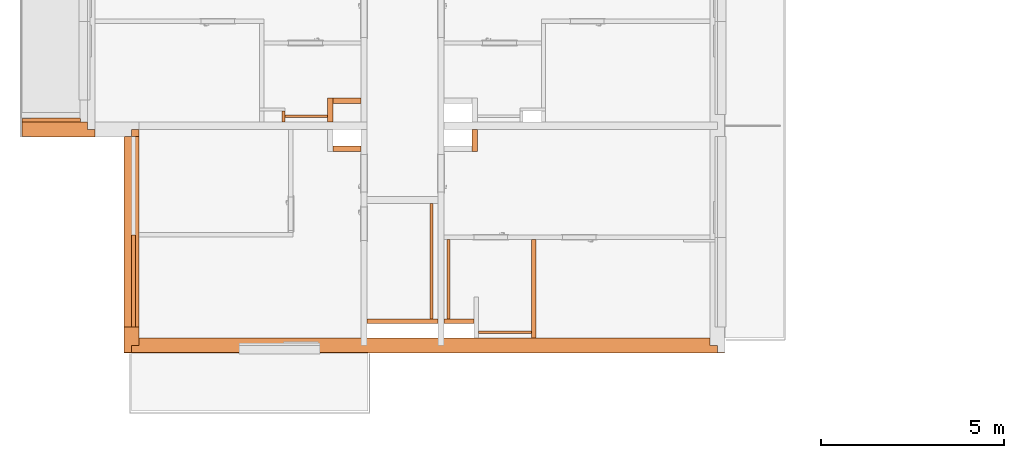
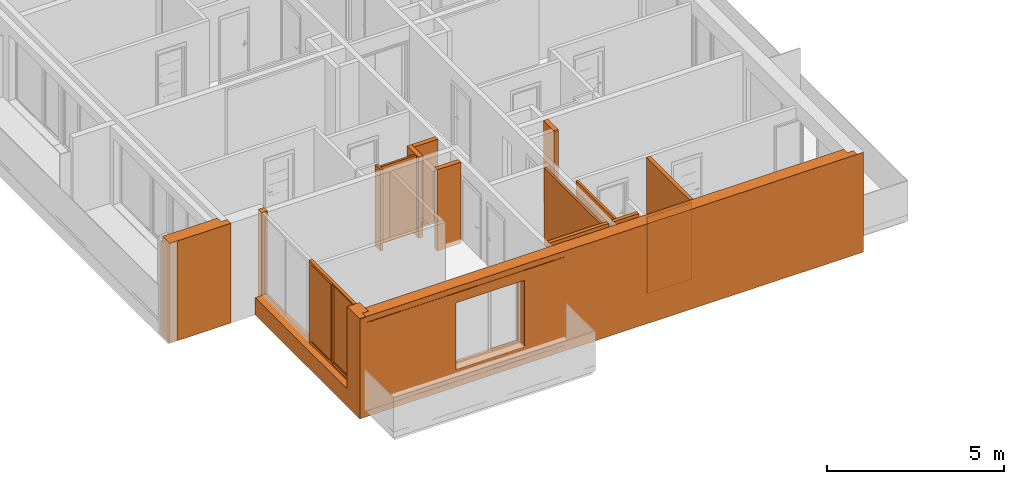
# One storey, part 52 of 67: 16 proxies, 4 openings.
"""IFC2X3 building model written with IfcOpenShell, lengths in millimetres."""

from ifc_helpers import new_model, entity, si_unit, converted_unit, derived_unit, money_unit, direction, frame, origin_with_axes, origin_2d_with_axis, place, context, subcontext, project, spatial, rectangle, extrude, open_shell, faceted_brep, surface_model, material, material_list, type_object, element, fill, save


model = new_model("IFC2X3")

# Units and contexts
model_context = context("Model", 3, precision=0.01, world=origin_with_axes(), true_north=direction((0.34421633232, 0.938890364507)))
body_context = subcontext(model_context, "Body", "Model", "MODEL_VIEW")
ifc_project = project(units=[si_unit("LENGTHUNIT", "METRE", prefix="MILLI"), si_unit("AREAUNIT", "SQUARE_METRE"), si_unit("VOLUMEUNIT", "CUBIC_METRE"), converted_unit("PLANEANGLEUNIT", "DEGREE", entity("IfcPlaneAngleMeasure", 0.0174532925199), si_unit("PLANEANGLEUNIT", "RADIAN"), dimensions=[0, 0, 0, 0, 0, 0, 0]), si_unit("SOLIDANGLEUNIT", "STERADIAN"), money_unit("USD"), converted_unit("TIMEUNIT", "Year", entity("IfcTimeMeasure", 31556926.0), si_unit("TIMEUNIT", "SECOND"), dimensions=[0, 0, 1, 0, 0, 0, 0]), si_unit("MASSUNIT", "GRAM", prefix="KILO"), si_unit("THERMODYNAMICTEMPERATUREUNIT", "DEGREE_CELSIUS"), si_unit("LUMINOUSINTENSITYUNIT", "LUMEN"), si_unit("ENERGYUNIT", "JOULE", prefix="MEGA"), derived_unit("THERMALCONDUCTANCEUNIT", [(si_unit("POWERUNIT", "WATT"), 1), (si_unit("LENGTHUNIT", "METRE"), -1), (si_unit("THERMODYNAMICTEMPERATUREUNIT", "KELVIN"), -1)]), derived_unit("SPECIFICHEATCAPACITYUNIT", [(si_unit("ENERGYUNIT", "JOULE"), 1), (si_unit("MASSUNIT", "GRAM", prefix="KILO"), -1), (si_unit("THERMODYNAMICTEMPERATUREUNIT", "KELVIN"), -1)]), derived_unit("MASSDENSITYUNIT", [(si_unit("MASSUNIT", "GRAM", prefix="KILO"), 1), (si_unit("VOLUMEUNIT", "CUBIC_METRE"), -1)])], contexts=[model_context])

# Site, building, storey
site_placement = place(None, origin_with_axes())
site = spatial("IfcSite", under=ifc_project, at=site_placement, Name="USTRONIE MORSKIE", CompositionType="ELEMENT")
building_placement = place(site_placement, origin_with_axes())
building = spatial("IfcBuilding", under=site, at=building_placement, Name="Budynek", CompositionType="ELEMENT")
storey_placement = place(building_placement, frame((0.0, 0.0, 4000.0), z_axis=(0.0, 0.0, 1.0), x_axis=(1.0, 0.0, 0.0)))
storey = spatial("IfcBuildingStorey", under=building, at=storey_placement, Name="PIĘTRO 1", CompositionType="ELEMENT", Elevation=4000.0)

# Proxies
ifc_material_1 = material(Name="Bloczki silikatowe")
building_element_proxy_type_1 = type_object("IfcBuildingElementProxyType", Name="Bloczki silikatowe 120", PredefinedType="NOTDEFINED")
proxy_1_placement = place(storey_placement, frame((359617.920919, 709701.199036, -160.0), z_axis=(0.0, 0.0, 1.0), x_axis=(-1.0, 0.0, 0.0)))
element("IfcBuildingElementProxy", 1, at=proxy_1_placement, inside=storey, type_object=building_element_proxy_type_1, material=ifc_material_1, Name="SW-04", context=body_context, shape_type="Brep", body=[
    faceted_brep([(2020.0, 4.54747350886e-10, 2800.0), (80.0, 2.27373675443e-10, 2800.0), (80.0, -120.0, 2800.0), (2020.0, -120.0, 2800.0), (2020.0, 4.54747350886e-10, 0.0), (80.0, 2.27373675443e-10, 0.0), (80.0, -120.0, 0.0), (2020.0, -120.0, 0.0)], [[[0, 1, 2, 3]], [[4, 5, 1, 0]], [[5, 6, 2, 1]], [[3, 2, 6, 7]], [[7, 4, 0, 3]], [[7, 6, 5, 4]]]),
])
proxy_2_placement = place(storey_placement, frame((362147.920919, 709201.199036, -160.0), z_axis=(0.0, 0.0, 1.0), x_axis=(0.0, 1.0, 0.0)))
element("IfcBuildingElementProxy", 2, at=proxy_2_placement, inside=storey, type_object=building_element_proxy_type_1, material=ifc_material_1, Name="SW-04", context=body_context, shape_type="Brep", body=[
    faceted_brep([(2790.01936646, -60.0, 2800.0), (2790.01936646, 60.0, 2800.0), (100.0, 60.0, 2800.0), (100.0, -60.0, 2800.0), (2790.01936646, -60.0, 0.0), (2790.01936646, 60.0, 0.0), (100.0, 60.0, 0.0), (100.0, -60.0, 0.0)], [[[0, 1, 2, 3]], [[1, 0, 4, 5]], [[1, 5, 6, 2]], [[7, 3, 2, 6]], [[4, 0, 3, 7]], [[5, 4, 7, 6]]]),
])
proxy_3_placement = place(storey_placement, frame((359617.920919, 709701.199036, -160.0), z_axis=(0.0, 0.0, 1.0), x_axis=(1.0, 0.0, 0.0)))
element("IfcBuildingElementProxy", 3, at=proxy_3_placement, inside=storey, type_object=building_element_proxy_type_1, material=ifc_material_1, Name="SW-04", context=body_context, shape_type="Brep", body=[
    faceted_brep([(900.0, 120.0, 0.0), (900.0, 0.0, 0.0), (80.0, 0.0, 0.0), (80.0, 120.0, 0.0), (900.0, 120.0, 2800.0), (900.0, 0.0, 2800.0), (80.0, 0.0, 2800.0), (80.0, 120.0, 2800.0)], [[[0, 1, 2, 3]], [[1, 0, 4, 5]], [[1, 5, 6, 2]], [[7, 3, 2, 6]], [[4, 0, 3, 7]], [[5, 4, 7, 6]]]),
])

# Proxies, openings
ifc_material_2 = material(Name="Beton konstrukcyjny B25")
ifc_material_3 = material(Name="Wełna ELEW")
ifc_material_4 = material(Name="Tynk zewnętrzny")
ifc_material_list_1 = material_list([ifc_material_2, ifc_material_3, ifc_material_4])
building_element_proxy_type_2 = type_object("IfcBuildingElementProxyType", Name="20+20 410", PredefinedType="NOTDEFINED")
proxy_4_placement = place(storey_placement, frame((351267.920919, 715101.199036, -600.0), z_axis=(0.0, 0.0, 1.0), x_axis=(0.0, -1.0, 0.0)))
proxy_4 = element("IfcBuildingElementProxy", 4, at=proxy_4_placement, inside=storey, type_object=building_element_proxy_type_2, material=ifc_material_list_1, Name="SZ-01", context=body_context, shape_type="Brep", body=[
    faceted_brep([(100.000005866, 100.0, 440.0), (100.000005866, 100.0, 3240.0), (100.0, 100.0, 3440.0), (6000.0, 100.0, 3440.0), (6000.0, 100.0, 0.0), (100.0, 100.0, 0.0), (100.000005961, 0.0, 3240.0), (100.000005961, 0.0, 440.0), (100.000005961, -100.0, 3240.0), (100.0, -100.0, 3440.0), (6000.0, -100.0, 3440.0), (6000.0, -100.0, 0.0), (100.0, -100.0, 0.0), (100.000005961, -100.0, 440.0)], [[[0, 1, 2, 3, 4, 5]], [[6, 1, 0, 7]], [[6, 8, 9, 2, 1]], [[2, 9, 10, 3]], [[4, 3, 10, 11]], [[12, 5, 4, 11]], [[7, 0, 5, 12, 13]], [[8, 6, 7, 13]], [[8, 13, 12, 11, 10, 9]]]),
    faceted_brep([(300.0, -100.0, 0.0), (300.0, -100.0, 3440.0), (6200.0, -100.0, 3440.0), (6200.0, -100.0, 0.0), (300.0, -300.0, 0.0), (300.0, -300.0, 3440.0), (6200.0, -300.0, 3440.0), (6200.0, -300.0, 0.0)], [[[0, 1, 2, 3]], [[1, 0, 4, 5]], [[2, 1, 5, 6]], [[7, 3, 2, 6]], [[7, 4, 0, 3]], [[5, 4, 7, 6]]]),
    faceted_brep([(310.00000596, -300.0, 440.0), (310.00000596, -300.0, 3240.0), (310.0, -300.0, 3440.0), (6210.0, -300.0, 3440.0), (6210.0, -300.0, 0.0), (310.0, -300.0, 0.0), (310.00000596, -310.0, 3240.0), (310.00000596, -310.0, 440.0), (310.0, -310.0, 3440.0), (6210.0, -310.0, 3440.0), (6210.0, -310.0, 0.0), (310.0, -310.0, 0.0)], [[[0, 1, 2, 3, 4, 5]], [[6, 1, 0, 7]], [[1, 6, 8, 2]], [[2, 8, 9, 3]], [[4, 3, 9, 10]], [[11, 5, 4, 10]], [[7, 0, 5, 11]], [[6, 7, 11, 10, 9, 8]]]),
])
opening_1_placement = place(proxy_4_placement, frame((4240.0, 0.0, 600.0), z_axis=(0.0, 0.0, 1.0), x_axis=(1.0, 0.0, 0.0)))
opening_1 = element("IfcOpeningElement", 5, at=opening_1_placement, cuts=proxy_4, Name="Wz.04", context=body_context, shape_type="SweptSolid", body=[
    extrude(rectangle(XDim=2520.0, YDim=2840.0, at=origin_2d_with_axis()), frame((0.0, 0.0, 1420.0), z_axis=(0.0, 1.0, 0.0), x_axis=(1.0, 0.0, 0.0)), (0.0, 0.0, -1.0), 720.0),
    extrude(rectangle(XDim=2520.0, YDim=2840.0, at=origin_2d_with_axis()), frame((0.0, 0.0, 1420.0), z_axis=(0.0, -1.0, 0.0), x_axis=(1.0, 0.0, 0.0)), (0.0, 0.0, -1.0), 510.0),
])
opening_2_placement = place(proxy_4_placement, frame((1640.0, 0.0, 600.0), z_axis=(0.0, 0.0, 1.0), x_axis=(1.0, 0.0, 0.0)))
element("IfcOpeningElement", 6, at=opening_2_placement, cuts=proxy_4, Name="Wz.04", context=body_context, shape_type="SweptSolid", body=[
    extrude(rectangle(XDim=2680.0, YDim=2840.0, at=origin_2d_with_axis()), frame((0.0, 0.0, 1420.0), z_axis=(0.0, -1.0, 0.0), x_axis=(-1.0, 0.0, 0.0)), (0.0, 0.0, 1.0), 720.0),
    extrude(rectangle(XDim=2680.0, YDim=2840.0, at=origin_2d_with_axis()), frame((0.0, 0.0, 1420.0), z_axis=(0.0, 1.0, 0.0), x_axis=(-1.0, 0.0, 0.0)), (0.0, 0.0, 1.0), 510.0),
])
building_element_proxy_type_3 = type_object("IfcBuildingElementProxyType", Name="Okno przesuwne, 2-skrzydłowe 23", PredefinedType="NOTDEFINED")
proxy_5_placement = place(opening_1_placement, frame((-1260.0, 0.0, 0.0), z_axis=(0.0, 0.0, 1.0), x_axis=(1.0, 0.0, 0.0)))
proxy_5 = element("IfcBuildingElementProxy", 7, at=proxy_5_placement, inside=storey, type_object=building_element_proxy_type_3, Name="Wz.04", context=body_context, shape_type="SurfaceModel", body=[
    faceted_brep([(50.0000000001, -100.0, 50.0), (50.0000000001, 0.0, 50.0), (50.0000000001, 0.0, 2790.0), (50.0000000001, -100.0, 2790.0), (0.0, -100.0, 50.0), (0.0, 0.0, 50.0), (0.0, 0.0, 2790.0), (0.0, -100.0, 2790.0)], [[[0, 1, 2, 3]], [[4, 5, 1, 0]], [[1, 5, 6, 2]], [[3, 2, 6, 7]], [[0, 3, 7, 4]], [[7, 6, 5, 4]]]),
    faceted_brep([(2520.0, -100.0, 50.0), (2520.0, 0.0, 50.0), (2520.0, 0.0, 2790.0), (2520.0, -100.0, 2790.0), (2470.0, -100.0, 50.0), (2470.0, 0.0, 50.0), (2470.0, 0.0, 2790.0), (2470.0, -100.0, 2790.0)], [[[0, 1, 2, 3]], [[4, 5, 1, 0]], [[1, 5, 6, 2]], [[3, 2, 6, 7]], [[0, 3, 7, 4]], [[7, 6, 5, 4]]]),
    faceted_brep([(2520.0, -100.0, 50.0), (2520.0, 0.0, 50.0), (2470.0, 0.0, 50.0), (2470.0, -100.0, 50.0), (2520.0, -100.0, 0.0), (2520.0, 0.0, 0.0), (0.0, 0.0, 0.0), (0.0, 0.0, 50.0), (50.0000000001, 0.0, 50.0), (50.0000000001, -100.0, 50.0), (0.0, -100.0, 50.0), (0.0, -100.0, 0.0)], [[[0, 1, 2, 3]], [[4, 5, 1, 0]], [[1, 5, 6, 7, 8, 2]], [[3, 2, 8, 9]], [[0, 3, 9, 10, 11, 4]], [[11, 6, 5, 4]], [[10, 7, 6, 11]], [[9, 8, 7, 10]]]),
    faceted_brep([(2520.0, -100.0, 2840.0), (2520.0, 0.0, 2840.0), (0.0, 0.0, 2840.0), (0.0, -100.0, 2840.0), (2520.0, -100.0, 2790.0), (2520.0, 0.0, 2790.0), (2470.0, 0.0, 2790.0), (50.0000000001, 0.0, 2790.0), (0.0, 0.0, 2790.0), (0.0, -100.0, 2790.0), (50.0000000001, -100.0, 2790.0), (2470.0, -100.0, 2790.0)], [[[0, 1, 2, 3]], [[4, 5, 1, 0]], [[1, 5, 6, 7, 8, 2]], [[3, 2, 8, 9]], [[0, 3, 9, 10, 11, 4]], [[11, 6, 5, 4]], [[10, 7, 6, 11]], [[9, 8, 7, 10]]]),
    faceted_brep([(100.0, -100.0, 2740.0), (100.0, -50.0, 2740.0), (50.0000000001, -50.0, 2740.0), (50.0000000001, -100.0, 2740.0), (100.0, -100.0, 100.0), (100.0, -50.0, 100.0), (50.0000000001, -50.0, 100.0), (50.0000000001, -100.0, 100.0)], [[[0, 1, 2, 3]], [[4, 5, 1, 0]], [[1, 5, 6, 2]], [[3, 2, 6, 7]], [[0, 3, 7, 4]], [[7, 6, 5, 4]]]),
    faceted_brep([(1235.0, -100.0, 100.0), (1235.0, -50.0, 100.0), (1285.0, -50.0, 100.0), (1285.0, -100.0, 100.0), (1235.0, -100.0, 2740.0), (1235.0, -50.0, 2740.0), (1285.0, -50.0, 2740.0), (1285.0, -100.0, 2740.0)], [[[0, 1, 2, 3]], [[4, 5, 1, 0]], [[1, 5, 6, 2]], [[3, 2, 6, 7]], [[0, 3, 7, 4]], [[7, 6, 5, 4]]]),
    faceted_brep([(1285.0, -100.0, 50.0), (1285.0, -50.0, 50.0), (1285.0, -50.0, 100.0), (1285.0, -100.0, 100.0), (50.0000000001, -100.0, 50.0), (50.0000000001, -50.0, 50.0), (50.0000000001, -50.0, 100.0), (100.0, -50.0, 100.0), (1235.0, -50.0, 100.0), (1235.0, -100.0, 100.0), (100.0, -100.0, 100.0), (50.0000000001, -100.0, 100.0)], [[[0, 1, 2, 3]], [[4, 5, 1, 0]], [[1, 5, 6, 7, 8, 2]], [[3, 2, 8, 9]], [[0, 3, 9, 10, 11, 4]], [[11, 6, 5, 4]], [[10, 7, 6, 11]], [[9, 8, 7, 10]]]),
    faceted_brep([(50.0000000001, -100.0, 2790.0), (50.0000000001, -50.0, 2790.0), (50.0000000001, -50.0, 2740.0), (50.0000000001, -100.0, 2740.0), (1285.0, -100.0, 2790.0), (1285.0, -50.0, 2790.0), (1285.0, -50.0, 2740.0), (1235.0, -50.0, 2740.0), (100.0, -50.0, 2740.0), (100.0, -100.0, 2740.0), (1235.0, -100.0, 2740.0), (1285.0, -100.0, 2740.0)], [[[0, 1, 2, 3]], [[4, 5, 1, 0]], [[1, 5, 6, 7, 8, 2]], [[3, 2, 8, 9]], [[0, 3, 9, 10, 11, 4]], [[11, 6, 5, 4]], [[10, 7, 6, 11]], [[9, 8, 7, 10]]]),
    surface_model("IfcShellBasedSurfaceModel", [(100.0, -85.0, 100.0), (1235.0, -85.0, 100.0), (1235.0, -85.0, 2740.0), (100.0, -85.0, 2740.0)], [open_shell([[[0, 1, 2, 3]]])]),
    surface_model("IfcShellBasedSurfaceModel", [(100.0, -65.0, 100.0), (100.0, -65.0, 2740.0), (1235.0, -65.0, 2740.0), (1235.0, -65.0, 100.0)], [open_shell([[[0, 1, 2, 3]]])]),
    faceted_brep([(1285.0, -50.0, 2740.0), (1285.0, 0.0, 2740.0), (1235.0, 0.0, 2740.0), (1235.0, -50.0, 2740.0), (1285.0, -50.0, 100.0), (1285.0, 0.0, 100.0), (1235.0, 0.0, 100.0), (1235.0, -50.0, 100.0)], [[[0, 1, 2, 3]], [[4, 5, 1, 0]], [[1, 5, 6, 2]], [[3, 2, 6, 7]], [[0, 3, 7, 4]], [[7, 6, 5, 4]]]),
    faceted_brep([(2420.0, -50.0, 100.0), (2420.0, 0.0, 100.0), (2470.0, 0.0, 100.0), (2470.0, -50.0, 100.0), (2420.0, -50.0, 2740.0), (2420.0, 0.0, 2740.0), (2470.0, 0.0, 2740.0), (2470.0, -50.0, 2740.0)], [[[0, 1, 2, 3]], [[4, 5, 1, 0]], [[1, 5, 6, 2]], [[3, 2, 6, 7]], [[0, 3, 7, 4]], [[7, 6, 5, 4]]]),
    faceted_brep([(2470.0, -50.0, 50.0), (2470.0, 0.0, 50.0), (2470.0, 0.0, 100.0), (2470.0, -50.0, 100.0), (1235.0, -50.0, 50.0), (1235.0, 0.0, 50.0), (1235.0, 0.0, 100.0), (1285.0, 0.0, 100.0), (2420.0, 0.0, 100.0), (2420.0, -50.0, 100.0), (1285.0, -50.0, 100.0), (1235.0, -50.0, 100.0)], [[[0, 1, 2, 3]], [[4, 5, 1, 0]], [[1, 5, 6, 7, 8, 2]], [[3, 2, 8, 9]], [[0, 3, 9, 10, 11, 4]], [[11, 6, 5, 4]], [[10, 7, 6, 11]], [[9, 8, 7, 10]]]),
    faceted_brep([(1235.0, -50.0, 2790.0), (1235.0, 0.0, 2790.0), (1235.0, 0.0, 2740.0), (1235.0, -50.0, 2740.0), (2470.0, -50.0, 2790.0), (2470.0, 0.0, 2790.0), (2470.0, 0.0, 2740.0), (2420.0, 0.0, 2740.0), (1285.0, 0.0, 2740.0), (1285.0, -50.0, 2740.0), (2420.0, -50.0, 2740.0), (2470.0, -50.0, 2740.0)], [[[0, 1, 2, 3]], [[4, 5, 1, 0]], [[1, 5, 6, 7, 8, 2]], [[3, 2, 8, 9]], [[0, 3, 9, 10, 11, 4]], [[11, 6, 5, 4]], [[10, 7, 6, 11]], [[9, 8, 7, 10]]]),
    surface_model("IfcShellBasedSurfaceModel", [(1285.0, -35.0, 100.0), (2420.0, -35.0, 100.0), (2420.0, -35.0, 2740.0), (1285.0, -35.0, 2740.0)], [open_shell([[[0, 1, 2, 3]]])]),
    surface_model("IfcShellBasedSurfaceModel", [(1285.0, -15.0, 100.0), (1285.0, -15.0, 2740.0), (2420.0, -15.0, 2740.0), (2420.0, -15.0, 100.0)], [open_shell([[[0, 1, 2, 3]]])]),
])
fill(opening_1, proxy_5)

# Proxy, opening
ifc_material_list_2 = material_list([ifc_material_4, ifc_material_3, ifc_material_2])
proxy_6_placement = place(storey_placement, frame((367067.957311, 709201.199036, -600.0), z_axis=(0.0, 0.0, 1.0), x_axis=(-1.0, 0.0, 0.0)))
proxy_6 = element("IfcBuildingElementProxy", 8, at=proxy_6_placement, inside=storey, type_object=building_element_proxy_type_2, material=ifc_material_list_2, Name="SZ-01", context=body_context, shape_type="Brep", body=[
    faceted_brep([(15900.0363918, 300.0, 3240.0), (9450.03639181, 300.0, 3240.0), (9450.03639181, 300.0, 3440.0), (-300.000630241, 300.0, 3440.0), (-300.000630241, 300.0, 0.0), (16100.0363918, 300.0, 0.0), (16100.0363918, 300.0, 3440.0), (15900.0363918, 300.0, 3440.0), (15900.0363918, 300.0, 505.0), (15900.0363918, 300.0, 195.0), (9450.03639181, 300.0, 195.0), (9450.03639181, 300.0, 505.0), (15900.0363918, 310.0, 3240.0), (9450.03639181, 310.0, 3240.0), (9450.03639181, 310.0, 3440.0), (-300.000651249, 310.0, 3440.0), (-300.000651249, 310.0, 0.0), (16100.0363918, 310.0, 0.0), (16100.0363918, 310.0, 3440.0), (15900.0363918, 310.0, 3440.0), (15900.0363918, 310.0, 505.0), (15900.0363918, 310.0, 195.0), (9450.03639181, 310.0, 195.0), (9450.03639181, 310.0, 505.0)], [[[0, 1, 2, 3, 4, 5, 6, 7], [8, 9, 10, 11]], [[1, 0, 12, 13]], [[14, 2, 1, 13]], [[2, 14, 15, 3]], [[4, 3, 15, 16]], [[17, 5, 4, 16]], [[18, 6, 5, 17]], [[19, 7, 6, 18]], [[0, 7, 19, 12]], [[8, 20, 21, 9]], [[10, 9, 21, 22]], [[23, 11, 10, 22]], [[8, 11, 23, 20]], [[12, 19, 18, 17, 16, 15, 14, 13], [23, 22, 21, 20]]]),
    faceted_brep([(15900.0363918, 100.0, 3440.0), (15900.0363918, 300.0, 3440.0), (-100.000630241, 300.0, 3440.0), (-100.00021008, 100.0, 3440.0), (15900.0363918, 100.0, 0.0), (15900.0363918, 300.0, 0.0), (-100.000630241, 300.0, 0.0), (-100.00021008, 100.0, 0.0)], [[[0, 1, 2, 3]], [[1, 0, 4, 5]], [[1, 5, 6, 2]], [[7, 3, 2, 6]], [[4, 0, 3, 7]], [[5, 4, 7, 6]]]),
    faceted_brep([(7530.03374574, -100.0, 240.0), (7530.03374574, -100.0, 0.0), (9470.03639181, -100.0, 0.0), (9470.03639181, -100.0, 240.0), (9630.03639181, -100.0, 240.0), (9630.03639181, -100.0, 0.0), (15700.0363918, -100.0, 0.0), (15700.0363918, -100.0, 3440.0), (100.00021008, -100.0, 3440.0), (100.00021008, -100.0, 0.0), (7370.03374574, -100.0, 0.0), (7370.03374574, -100.0, 240.0), (7530.03639181, -100.0, 440.0), (7370.03639181, -100.0, 440.0), (7370.03639181, -100.0, 3240.0), (7530.03639181, -100.0, 3240.0), (9630.03639181, -100.0, 440.0), (9470.03639181, -100.0, 440.0), (9470.03639181, -100.0, 3240.0), (9630.03639181, -100.0, 3240.0), (7530.03374574, 100.0, 240.0), (7530.03374574, 100.0, 0.0), (9470.03639181, 100.0, 0.0), (9470.03639181, 100.0, 240.0), (9630.03639181, 100.0, 240.0), (9630.03639181, 100.0, 0.0), (15700.0363918, 100.0, 0.0), (15700.0363918, 100.0, 3440.0), (99.9997899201, 100.0, 3440.0), (99.9997899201, 100.0, 0.0), (7370.03374574, 100.0, 0.0), (7370.03374574, 100.0, 240.0), (7530.03639181, 100.0, 440.0), (7370.03639181, 100.0, 440.0), (7370.03639181, 100.0, 3240.0), (7530.03639181, 100.0, 3240.0), (9630.03639181, 100.0, 440.0), (9470.03639181, 100.0, 440.0), (9470.03639181, 100.0, 3240.0), (9630.03639181, 100.0, 3240.0)], [[[0, 1, 2, 3, 4, 5, 6, 7, 8, 9, 10, 11], [12, 13, 14, 15], [16, 17, 18, 19]], [[1, 0, 20, 21]], [[1, 21, 22, 2]], [[3, 2, 22, 23]], [[4, 3, 23, 24]], [[5, 4, 24, 25]], [[5, 25, 26, 6]], [[27, 7, 6, 26]], [[7, 27, 28, 8]], [[9, 8, 28, 29]], [[30, 10, 9, 29]], [[11, 10, 30, 31]], [[0, 11, 31, 20]], [[13, 12, 32, 33]], [[14, 13, 33, 34]], [[15, 14, 34, 35]], [[12, 15, 35, 32]], [[17, 16, 36, 37]], [[18, 17, 37, 38]], [[19, 18, 38, 39]], [[16, 19, 39, 36]], [[31, 30, 29, 28, 27, 26, 25, 24, 23, 22, 21, 20], [32, 35, 34, 33], [36, 39, 38, 37]]]),
])
opening_3_placement = place(proxy_6_placement, frame((11860.0397091, 0.0, 600.0), z_axis=(0.0, 0.0, 1.0), x_axis=(1.0, 0.0, 0.0)))
element("IfcOpeningElement", 9, at=opening_3_placement, cuts=proxy_6, Name="Wz.01", context=body_context, shape_type="SweptSolid", body=[
    extrude(rectangle(XDim=2220.00663467, YDim=2300.0, at=origin_2d_with_axis()), frame((0.0, 99.9999999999, 1150.0), z_axis=(0.0, -1.0, 0.0), x_axis=(-1.0, 0.0, 0.0)), (0.0, 0.0, -1.0), 620.0),
    extrude(rectangle(XDim=2220.00663467, YDim=2300.0, at=origin_2d_with_axis()), frame((0.0, 100.0, 1150.0), z_axis=(0.0, 1.0, 0.0), x_axis=(-1.0, 0.0, 0.0)), (0.0, 0.0, -1.0), 610.0),
])

# Proxies
ifc_material_5 = material(Name="-Pustka powietrzna")
ifc_material_6 = material(Name="Płyta GK")
ifc_material_list_3 = material_list([ifc_material_5, ifc_material_6, ifc_material_6])
building_element_proxy_type_4 = type_object("IfcBuildingElementProxyType", Name="330-SD GK 2-warstwy 75", PredefinedType="NOTDEFINED")
proxy_7_placement = place(storey_placement, frame((359372.920919, 713071.199036, -160.0), z_axis=(0.0, 0.0, 1.0), x_axis=(0.0, -1.0, 0.0)))
element("IfcBuildingElementProxy", 10, at=proxy_7_placement, inside=storey, type_object=building_element_proxy_type_4, material=ifc_material_list_3, Name="Ściana-009", context=body_context, shape_type="Brep", body=[
    faceted_brep([(3249.99999956, 25.0, 160.0), (90.0, 25.0, 160.0), (90.0, 25.0, 2800.0), (3249.99999956, 25.0, 2800.0), (90.0, -25.0, 160.0), (3249.99999956, -25.0, 160.0), (90.0, -25.0, 2800.0), (3249.99999956, -25.0, 2800.0)], [[[0, 1, 2, 3]], [[4, 1, 0, 5]], [[1, 4, 6, 2]], [[7, 3, 2, 6]], [[5, 0, 3, 7]], [[4, 5, 7, 6]]]),
    faceted_brep([(3249.99999956, -25.0, 145.0), (90.0, -25.0, 145.0), (90.0, -25.0, 2800.0), (3249.99999956, -25.0, 2800.0), (90.0, -37.5, 145.0), (3249.99999956, -37.5, 145.0), (90.0, -37.5, 2800.0), (3249.99999956, -37.5, 2800.0)], [[[0, 1, 2, 3]], [[4, 1, 0, 5]], [[1, 4, 6, 2]], [[7, 3, 2, 6]], [[5, 0, 3, 7]], [[4, 5, 7, 6]]]),
    faceted_brep([(3249.99999956, -37.5, 145.0), (90.0, -37.5, 145.0), (90.0, -37.5, 2800.0), (3249.99999956, -37.5, 2800.0), (90.0, -50.0, 145.0), (3249.99999956, -50.0, 145.0), (90.0, -50.0, 2800.0), (3249.99999956, -50.0, 2800.0)], [[[0, 1, 2, 3]], [[4, 1, 0, 5]], [[1, 4, 6, 2]], [[7, 3, 2, 6]], [[5, 0, 3, 7]], [[4, 5, 7, 6]]]),
])
proxy_8_placement = place(storey_placement, frame((362147.920919, 709446.199036, -160.0), z_axis=(0.0, 0.0, 1.0), x_axis=(-1.0, 0.0, 0.0)))
element("IfcBuildingElementProxy", 11, at=proxy_8_placement, inside=storey, type_object=building_element_proxy_type_4, material=ifc_material_list_3, Name="Ściana-009", context=body_context, shape_type="Brep", body=[
    faceted_brep([(60.0, 25.0, 160.0), (60.0, -25.0, 160.0), (60.0, -25.0, 2800.0), (60.0, 25.0, 2800.0), (1510.0, -25.0, 160.0), (1510.0, 25.0, 160.0), (1510.0, -25.0, 2800.0), (1510.0, 25.0, 2800.0)], [[[0, 1, 2, 3]], [[4, 1, 0, 5]], [[1, 4, 6, 2]], [[6, 7, 3, 2]], [[5, 0, 3, 7]], [[4, 5, 7, 6]]]),
    faceted_brep([(60.0, -25.0, 145.0), (60.0, -37.5, 145.0), (60.0, -37.5, 2800.0), (60.0, -25.0, 2800.0), (1510.0, -37.5, 145.0), (1510.0, -25.0, 145.0), (1510.0, -37.5, 2800.0), (1510.0, -25.0, 2800.0)], [[[0, 1, 2, 3]], [[4, 1, 0, 5]], [[1, 4, 6, 2]], [[6, 7, 3, 2]], [[5, 0, 3, 7]], [[4, 5, 7, 6]]]),
    faceted_brep([(60.0, -37.5, 145.0), (60.0, -50.0, 145.0), (60.0, -50.0, 2800.0), (60.0, -37.5, 2800.0), (1510.0, -50.0, 145.0), (1510.0, -37.5, 145.0), (1510.0, -50.0, 2800.0), (1510.0, -37.5, 2800.0)], [[[0, 1, 2, 3]], [[4, 1, 0, 5]], [[1, 4, 6, 2]], [[6, 7, 3, 2]], [[5, 0, 3, 7]], [[4, 5, 7, 6]]]),
])
ifc_material_list_4 = material_list([ifc_material_6, ifc_material_6, ifc_material_5])
proxy_9_placement = place(storey_placement, frame((355317.920919, 715371.200737, -180.0), z_axis=(0.0, 0.0, 1.0), x_axis=(1.0, 0.0, 0.0)))
element("IfcBuildingElementProxy", 12, at=proxy_9_placement, inside=storey, type_object=building_element_proxy_type_4, material=ifc_material_list_4, Name="Ściana-009", context=body_context, shape_type="Brep", body=[
    faceted_brep([(1200.0, 12.5, 165.0), (1200.0, 25.0, 165.0), (1200.0, 25.0, 2820.0), (1200.0, 12.5, 2820.0), (40.0, 25.0, 165.0), (40.0, 12.5, 165.0), (40.0, 25.0, 2820.0), (40.0, 12.5, 2820.0)], [[[0, 1, 2, 3]], [[4, 1, 0, 5]], [[1, 4, 6, 2]], [[2, 6, 7, 3]], [[5, 0, 3, 7]], [[4, 5, 7, 6]]]),
    faceted_brep([(1200.0, 0.0, 165.0), (1200.0, 12.5, 165.0), (1200.0, 12.5, 2820.0), (1200.0, 0.0, 2820.0), (40.0, 12.5, 165.0), (40.0, 0.0, 165.0), (40.0, 12.5, 2820.0), (40.0, 0.0, 2820.0)], [[[0, 1, 2, 3]], [[4, 1, 0, 5]], [[1, 4, 6, 2]], [[2, 6, 7, 3]], [[5, 0, 3, 7]], [[4, 5, 7, 6]]]),
    faceted_brep([(1200.0, -50.0, 180.0), (1200.0, 0.0, 180.0), (1200.0, 0.0, 2820.0), (1200.0, -50.0, 2820.0), (40.0, 0.0, 180.0), (40.0, -50.0, 180.0), (40.0, 0.0, 2820.0), (40.0, -50.0, 2820.0)], [[[0, 1, 2, 3]], [[4, 1, 0, 5]], [[1, 4, 6, 2]], [[2, 6, 7, 3]], [[5, 0, 3, 7]], [[4, 5, 7, 6]]]),
])
proxy_10_placement = place(storey_placement, frame((359812.920919, 712051.218403, -160.0), z_axis=(0.0, 0.0, 1.0), x_axis=(0.0, -1.0, 0.0)))
element("IfcBuildingElementProxy", 13, at=proxy_10_placement, inside=storey, type_object=building_element_proxy_type_4, material=ifc_material_list_4, Name="Ściana-009", context=body_context, shape_type="Brep", body=[
    faceted_brep([(2230.01936646, 50.0, 145.0), (59.9999999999, 50.0, 145.0), (59.9999999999, 50.0, 2800.0), (2230.01936646, 50.0, 2800.0), (59.9999999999, 37.5, 145.0), (2230.01936646, 37.5, 145.0), (59.9999999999, 37.5, 2800.0), (2230.01936646, 37.5, 2800.0)], [[[0, 1, 2, 3]], [[4, 1, 0, 5]], [[1, 4, 6, 2]], [[7, 3, 2, 6]], [[5, 0, 3, 7]], [[4, 5, 7, 6]]]),
    faceted_brep([(2230.01936646, 37.5, 145.0), (59.9999999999, 37.5, 145.0), (59.9999999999, 37.5, 2800.0), (2230.01936646, 37.5, 2800.0), (59.9999999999, 25.0, 145.0), (2230.01936646, 25.0, 145.0), (59.9999999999, 25.0, 2800.0), (2230.01936646, 25.0, 2800.0)], [[[0, 1, 2, 3]], [[4, 1, 0, 5]], [[1, 4, 6, 2]], [[7, 3, 2, 6]], [[5, 0, 3, 7]], [[4, 5, 7, 6]]]),
    faceted_brep([(2230.01936646, 25.0, 160.0), (59.9999999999, 25.0, 160.0), (59.9999999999, 25.0, 2800.0), (2230.01936646, 25.0, 2800.0), (59.9999999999, -25.0, 160.0), (2230.01936646, -25.0, 160.0), (59.9999999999, -25.0, 2800.0), (2230.01936646, -25.0, 2800.0)], [[[0, 1, 2, 3]], [[4, 1, 0, 5]], [[1, 4, 6, 2]], [[7, 3, 2, 6]], [[5, 0, 3, 7]], [[4, 5, 7, 6]]]),
])
building_element_proxy_type_5 = type_object("IfcBuildingElementProxyType", Name="Bloczki silikatowe 80", PredefinedType="NOTDEFINED")
proxy_11_placement = place(storey_placement, frame((355317.920919, 715101.199036, -160.0), z_axis=(0.0, 0.0, 1.0), x_axis=(0.0, 1.0, 0.0)))
element("IfcBuildingElementProxy", 14, at=proxy_11_placement, inside=storey, type_object=building_element_proxy_type_5, material=ifc_material_1, Name="Ściana-010", context=body_context, shape_type="Brep", body=[
    faceted_brep([(400.01915523, 40.0, 0.0), (400.01915523, -40.0, 0.0), (100.0, -40.0, 0.0), (100.0, 40.0, 0.0), (400.01915523, 40.0, 2800.0), (400.01915523, -40.0, 2800.0), (100.0, -40.0, 2800.0), (100.0, 40.0, 2800.0)], [[[0, 1, 2, 3]], [[1, 0, 4, 5]], [[1, 5, 6, 2]], [[7, 3, 2, 6]], [[4, 0, 3, 7]], [[5, 4, 7, 6]]]),
])
building_element_proxy_type_6 = type_object("IfcBuildingElementProxyType", Name="Bloczki silikatowe 150", PredefinedType="NOTDEFINED")
proxy_12_placement = place(storey_placement, frame((360542.92182, 715101.199035, -160.0), z_axis=(0.0, 0.0, 1.0), x_axis=(0.0, -1.0, 0.0)))
element("IfcBuildingElementProxy", 15, at=proxy_12_placement, inside=storey, type_object=building_element_proxy_type_6, material=ifc_material_1, Name="Ściana-009", context=body_context, shape_type="Brep", body=[
    faceted_brep([(700.001976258, 75.0, 0.0), (700.001976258, -75.0, 0.0), (100.000002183, -75.0, 0.0), (100.000002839, 75.0, 0.0), (700.001976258, 75.0, 2800.0), (700.001976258, -75.0, 2800.0), (100.000002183, -75.0, 2800.0), (100.000002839, 75.0, 2800.0)], [[[0, 1, 2, 3]], [[1, 0, 4, 5]], [[1, 5, 6, 2]], [[7, 3, 2, 6]], [[4, 0, 3, 7]], [[5, 4, 7, 6]]]),
])
proxy_13_placement = place(storey_placement, frame((356592.920919, 715101.199036, -160.0), z_axis=(0.0, 0.0, 1.0), x_axis=(0.0, 1.0, 0.0)))
element("IfcBuildingElementProxy", 16, at=proxy_13_placement, inside=storey, type_object=building_element_proxy_type_6, material=ifc_material_1, Name="Ściana-009", context=body_context, shape_type="Brep", body=[
    faceted_brep([(749.994856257, 75.0, 0.0), (749.994856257, -75.0, 0.0), (100.0, -75.0, 0.0), (100.0, 75.0, 0.0), (749.994856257, 75.0, 2800.0), (749.994856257, -75.0, 2800.0), (100.0, -75.0, 2800.0), (100.0, 75.0, 2800.0)], [[[0, 1, 2, 3]], [[1, 0, 4, 5]], [[1, 5, 6, 2]], [[7, 3, 2, 6]], [[4, 0, 3, 7]], [[5, 4, 7, 6]]]),
])
proxy_14_placement = place(storey_placement, frame((356592.920018, 714476.197058, -160.0), z_axis=(0.0, 0.0, 1.0), x_axis=(1.0, 0.0, 0.0)))
element("IfcBuildingElementProxy", 17, at=proxy_14_placement, inside=storey, type_object=building_element_proxy_type_6, material=ifc_material_1, Name="SW-03", context=body_context, shape_type="Brep", body=[
    faceted_brep([(845.00090117, 75.0, 0.0), (845.00090117, -75.0, 0.0), (75.0, -75.0, 0.0), (75.0, 75.0, 0.0), (845.00090117, 75.0, 2800.0), (845.00090117, -75.0, 2800.0), (75.0, -75.0, 2800.0), (75.0, 75.0, 2800.0)], [[[0, 1, 2, 3]], [[1, 0, 4, 5]], [[1, 5, 6, 2]], [[7, 3, 2, 6]], [[4, 0, 3, 7]], [[5, 4, 7, 6]]]),
])
proxy_15_placement = place(storey_placement, frame((356592.920919, 715776.193892, -160.0), z_axis=(0.0, 0.0, 1.0), x_axis=(1.0, 0.0, 0.0)))
element("IfcBuildingElementProxy", 18, at=proxy_15_placement, inside=storey, type_object=building_element_proxy_type_6, material=ifc_material_1, Name="Ściana-009", context=body_context, shape_type="Brep", body=[
    faceted_brep([(845.0, 75.0, 0.0), (845.0, -75.0, 0.0), (75.0, -75.0, 0.0), (75.0, 75.0, 0.0), (845.0, 75.0, 2800.0), (845.0, -75.0, 2800.0), (75.0, -75.0, 2800.0), (75.0, 75.0, 2800.0)], [[[0, 1, 2, 3]], [[1, 0, 4, 5]], [[1, 5, 6, 2]], [[7, 3, 2, 6]], [[4, 0, 3, 7]], [[5, 4, 7, 6]]]),
])

# Proxy, opening
ifc_material_list_5 = material_list([ifc_material_4, ifc_material_3, ifc_material_2, ifc_material_3, ifc_material_4])
building_element_proxy_type_7 = type_object("IfcBuildingElementProxyType", Name="BALKON bok 01 520", PredefinedType="NOTDEFINED")
proxy_16_placement = place(storey_placement, frame((350067.921003, 715101.199036, -600.000001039), z_axis=(0.0, 0.0, 1.0), x_axis=(-1.0, 0.0, 0.0)))
proxy_16 = element("IfcBuildingElementProxy", 19, at=proxy_16_placement, inside=storey, type_object=building_element_proxy_type_7, material=ifc_material_list_5, Name="Œciana-006", context=body_context, shape_type="Brep", body=[
    faceted_brep([(-99.9999160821, 300.0, 3440.00000104), (1949.99981809, 300.0, 3440.00000104), (1949.99981809, 310.0, 3440.00000104), (-99.9999160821, 310.0, 3440.00000104), (-99.9999160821, 300.0, 0.0), (1949.99981809, 300.0, 0.0), (1949.99981809, 310.0, 0.0), (-99.9999160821, 310.0, 0.0)], [[[0, 1, 2, 3]], [[4, 5, 1, 0]], [[2, 1, 5, 6]], [[3, 2, 6, 7]], [[4, 0, 3, 7]], [[7, 6, 5, 4]]]),
    faceted_brep([(-99.9999160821, 100.0, 3440.00000104), (1949.99981809, 100.0, 3440.00000104), (1949.99981809, 300.0, 3440.00000104), (-99.9999160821, 300.0, 3440.00000104), (-99.9999160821, 100.0, 0.0), (1949.99981809, 100.0, 0.0), (1949.99981809, 300.0, 0.0), (-99.9999160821, 300.0, 0.0)], [[[0, 1, 2, 3]], [[4, 5, 1, 0]], [[2, 1, 5, 6]], [[3, 2, 6, 7]], [[4, 0, 3, 7]], [[7, 6, 5, 4]]]),
    faceted_brep([(100.000083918, -100.0, 3440.00000104), (1949.99981809, -100.0, 3440.00000104), (1949.99981809, 100.0, 3440.00000104), (100.000083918, 100.0, 3440.00000104), (100.000083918, -100.0, 0.0), (1949.99981809, -100.0, 0.0), (1949.99981809, 100.0, 0.0), (100.000083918, 100.0, 0.0)], [[[0, 1, 2, 3]], [[4, 5, 1, 0]], [[2, 1, 5, 6]], [[3, 2, 6, 7]], [[4, 0, 3, 7]], [[7, 6, 5, 4]]]),
    faceted_brep([(1910.03048423, -200.0, 3229.99999287), (309.99940254, -200.0, 3229.99999287), (309.999886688, -200.0, 3240.00001529), (300.000083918, -200.0, 3240.00001538), (300.000083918, -200.0, 0.0), (1949.99981809, -200.0, 0.0), (1949.99981809, -200.0, 3440.00000104), (1910.03048423, -200.0, 3440.0000192), (1910.03048423, -100.0, 3229.99999287), (309.99940254, -100.0, 3229.99999287), (309.999886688, -100.0, 3240.00001529), (300.000083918, -100.0, 3240.0000139), (300.000083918, -100.0, 0.0), (1949.99981809, -100.0, 0.0), (1949.99981809, -100.0, 3440.00000104), (1910.03048423, -100.0, 3440.0000192)], [[[0, 1, 2, 3, 4, 5, 6, 7]], [[1, 0, 8, 9]], [[10, 2, 1, 9]], [[2, 10, 11, 3]], [[3, 11, 12, 4]], [[12, 13, 5, 4]], [[14, 6, 5, 13]], [[15, 7, 6, 14]], [[0, 7, 15, 8]], [[8, 15, 14, 13, 12, 11, 10, 9]]]),
    faceted_brep([(1949.99981809, -200.0, 0.0), (1949.99981809, -200.0, 3440.00000104), (1949.99981809, -210.0, 3440.00000104), (1949.99981809, -210.0, 0.0), (310.000083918, -200.0, 0.0), (310.000083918, -200.0, 3229.99999287), (1910.03048423, -200.0, 3229.99999287), (1910.03048423, -200.0, 3440.00000104), (1910.03048423, -210.0, 3440.00000104), (1910.03048423, -210.0, 3229.99999287), (310.000083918, -210.0, 3229.99999287), (310.000083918, -210.0, 0.0)], [[[0, 1, 2, 3]], [[1, 0, 4, 5, 6, 7]], [[1, 7, 8, 2]], [[3, 2, 8, 9, 10, 11]], [[0, 3, 11, 4]], [[4, 11, 10, 5]], [[6, 5, 10, 9]], [[7, 6, 9, 8]]]),
])
opening_4_placement = place(proxy_16_placement, frame((1949.99981809, 0.0, 0.0), z_axis=(0.0, 0.0, 1.0), x_axis=(1.0, 0.0, 0.0)))
element("IfcOpeningElement", 20, at=opening_4_placement, cuts=proxy_16, Name="ZS1", context=body_context, shape_type="SweptSolid", body=[
    extrude(rectangle(XDim=9.99999999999, YDim=50.0, at=origin_2d_with_axis()), frame((-25.0, 305.0, 0.0), z_axis=(0.0, 0.0, 1.0), x_axis=(0.0, -1.0, 0.0)), (0.0, 0.0, 1.0), 3440.00000104),
    extrude(rectangle(XDim=9.99999999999, YDim=250.0, at=origin_2d_with_axis()), frame((-175.0, 305.0, 0.0), z_axis=(0.0, 0.0, 1.0), x_axis=(0.0, -1.0, 0.0)), (0.0, 0.0, 1.0), 3440.00000104),
    extrude(rectangle(XDim=9.99999999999, YDim=50.0, at=origin_2d_with_axis()), frame((-25.0, -205.0, 0.0), z_axis=(0.0, 0.0, 1.0), x_axis=(0.0, -1.0, 0.0)), (0.0, 0.0, 1.0), 3440.00000104),
    extrude(rectangle(XDim=9.99999999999, YDim=250.0, at=origin_2d_with_axis()), frame((-175.0, -205.0, 0.0), z_axis=(0.0, 0.0, 1.0), x_axis=(0.0, -1.0, 0.0)), (0.0, 0.0, 1.0), 3440.00000104),
    extrude(rectangle(XDim=500.0, YDim=50.0, at=origin_2d_with_axis()), frame((-25.0, 50.0, 0.0), z_axis=(0.0, 0.0, 1.0), x_axis=(0.0, -1.0, 0.0)), (0.0, 0.0, 1.0), 3440.00000104),
])

save(model, "model.ifc")
